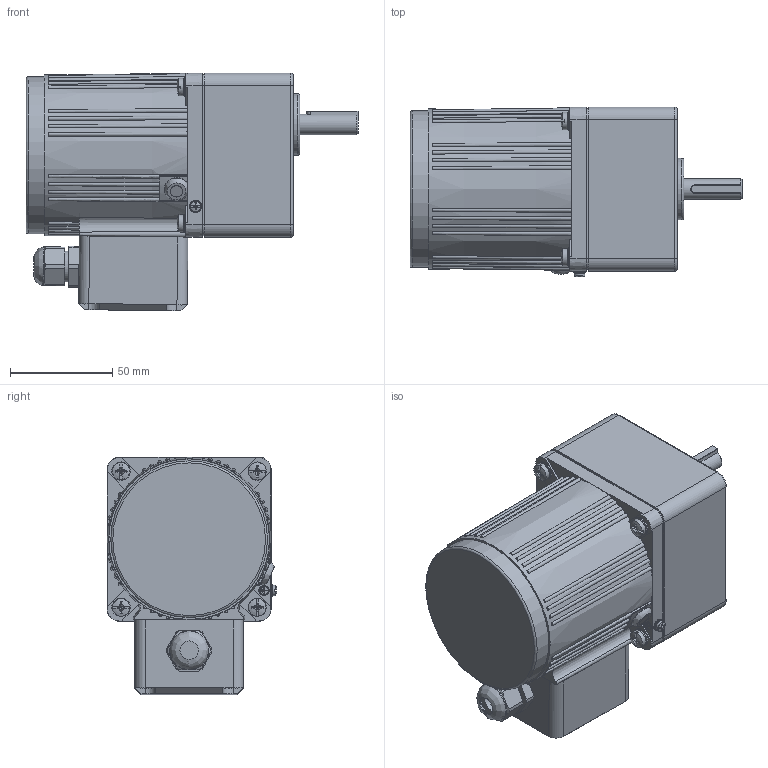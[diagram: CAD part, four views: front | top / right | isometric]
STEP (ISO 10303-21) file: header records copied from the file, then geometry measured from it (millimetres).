
FILE_DESCRIPTION(/* description */ (''),/* implementation_level */ '2;1');
FILE_NAME(/* name */ '4RK25-30GNC-4GN25-750K-C·10L常规接线盒.stp',/* time_stamp */ '2025-04-13T15:00:32+08:00',/* author */ (''),/* organization */ (''),/* preprocessor_version */ 'ST-DEVELOPER v18.102',/* originating_system */ 'SIEMENS PLM Software NX 2027',/* authorisation */ '');
FILE_SCHEMA (('AP203_CONFIGURATION_CONTROLLED_3D_DESIGN_OF_MECHANICAL_PARTS_AND_ASSEMBLIES_MIM_LF { 1 0 10303 403 2 1 2}'));
Length unit declared in the file: millimetre
Products named in the file (1): 4RK25-30CC-4GN25-750K-C·10L_stp_M066263C6523mtm8
Bounding box: 162 x 82.78 x 115.89 mm (x, y, z)
Volume: 741753.1 mm3; surface area: 105119.9 mm2
Topology: 9 solids, 9 shells, 867 faces, 2271 edges, 1482 vertices
Faces by surface type: plane 319, bspline 237, cylinder 170, cone 75, torus 52, sphere 14
Full cylindrical faces by diameter (mm): 2.6 x1, 2.7 x1, 3.2 x1, 4 x5, 4.2 x8, 4.4 x1, 4.5 x4, 4.6 x4, 5 x5, 5.1 x1, 5.3 x4, 6 x6, 6.5 x4, 8.2 x1, 8.5 x4, 9 x5, 10 x1, 10.5 x1, 12 x1, 15 x2, 16 x1, 18 x1, 19 x2, 26 x1, 30 x1, 56 x1, 67 x1, 73 x1, 75 x2, 76.5 x1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
Entity records: 33073 total; most frequent: CARTESIAN_POINT 14762, ORIENTED_EDGE 4136, DIRECTION 2804, EDGE_CURVE 2068, VERTEX_POINT 1402, AXIS2_PLACEMENT_3D 1126, EDGE_LOOP 1085, B_SPLINE_CURVE_WITH_KNOTS 1023
